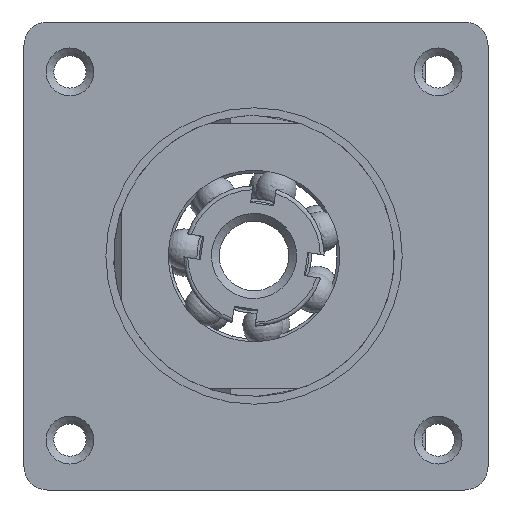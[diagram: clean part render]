
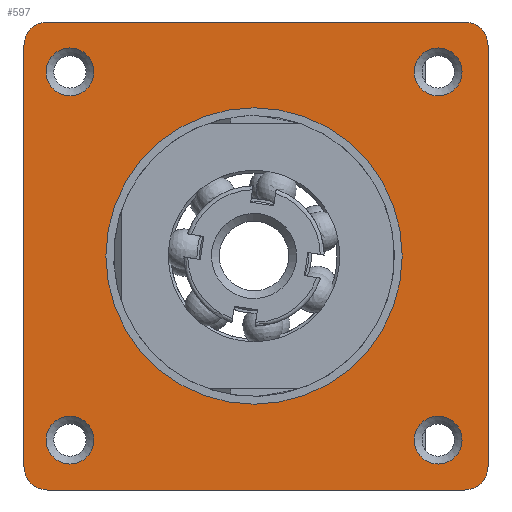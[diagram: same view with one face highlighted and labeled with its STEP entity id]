
A CAD part, left-side view. The second image highlights one B-rep face of the part: STEP entity #597.
In plain terms, the highlighted planar face has unit normal (-1, 0, 0).
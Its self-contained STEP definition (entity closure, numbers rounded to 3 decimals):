
#597=ADVANCED_FACE('',(#3290,#3292,#3294,#3296,#3298,#3300),#3302,.T.);
#3290=FACE_BOUND('',#3291,.T.);
#3291=EDGE_LOOP('',(#5610,#5611,#5612,#5613,#5614,#5615,#5616,#5617));
#3292=FACE_BOUND('',#3293,.T.);
#3293=EDGE_LOOP('',(#5618));
#3294=FACE_BOUND('',#3295,.T.);
#3295=EDGE_LOOP('',(#5619));
#3296=FACE_BOUND('',#3297,.T.);
#3297=EDGE_LOOP('',(#5620));
#3298=FACE_BOUND('',#3299,.T.);
#3299=EDGE_LOOP('',(#5621));
#3300=FACE_BOUND('',#3301,.T.);
#3301=EDGE_LOOP('',(#5622));
#3302=PLANE('',#3303);
#3303=AXIS2_PLACEMENT_3D('',#3304,#3305,#3306);
#3304=CARTESIAN_POINT('',(-10.,59.5,-30.));
#3305=DIRECTION('',(-1.,0.,0.));
#3306=DIRECTION('',(0.,-1.,0.));
#5610=ORIENTED_EDGE('',*,*,#6713,.F.);
#5611=ORIENTED_EDGE('',*,*,#6659,.F.);
#5612=ORIENTED_EDGE('',*,*,#6714,.F.);
#5613=ORIENTED_EDGE('',*,*,#6715,.F.);
#5614=ORIENTED_EDGE('',*,*,#6716,.F.);
#5615=ORIENTED_EDGE('',*,*,#6632,.T.);
#5616=ORIENTED_EDGE('',*,*,#6717,.F.);
#5617=ORIENTED_EDGE('',*,*,#6711,.T.);
#5618=ORIENTED_EDGE('',*,*,#6718,.T.);
#5619=ORIENTED_EDGE('',*,*,#6719,.T.);
#5620=ORIENTED_EDGE('',*,*,#6720,.T.);
#5621=ORIENTED_EDGE('',*,*,#6721,.T.);
#5622=ORIENTED_EDGE('',*,*,#6722,.T.);
#6632=EDGE_CURVE('',#7240,#7238,#7241,.T.);
#6659=EDGE_CURVE('',#7290,#7292,#7293,.T.);
#6711=EDGE_CURVE('',#7377,#7375,#7378,.T.);
#6713=EDGE_CURVE('',#7292,#7375,#7380,.F.);
#6714=EDGE_CURVE('',#7381,#7290,#7382,.F.);
#6715=EDGE_CURVE('',#7383,#7381,#7384,.T.);
#6716=EDGE_CURVE('',#7240,#7383,#7385,.F.);
#6717=EDGE_CURVE('',#7377,#7238,#7386,.F.);
#6718=EDGE_CURVE('',#7387,#7387,#7388,.F.);
#6719=EDGE_CURVE('',#7389,#7389,#7390,.F.);
#6720=EDGE_CURVE('',#7391,#7391,#7392,.F.);
#6721=EDGE_CURVE('',#7393,#7393,#7394,.F.);
#6722=EDGE_CURVE('',#7395,#7395,#7396,.F.);
#7238=VERTEX_POINT('',#8330);
#7240=VERTEX_POINT('',#8334);
#7241=LINE('',#8335,#8336);
#7290=VERTEX_POINT('',#8441);
#7292=VERTEX_POINT('',#8445);
#7293=LINE('',#8446,#8447);
#7375=VERTEX_POINT('',#8691);
#7377=VERTEX_POINT('',#8695);
#7378=LINE('',#8696,#8697);
#7380=CIRCLE('',#8702,3.);
#7381=VERTEX_POINT('',#8706);
#7382=CIRCLE('',#8707,3.);
#7383=VERTEX_POINT('',#8711);
#7384=LINE('',#8712,#8713);
#7385=CIRCLE('',#8715,3.);
#7386=CIRCLE('',#8719,3.);
#7387=VERTEX_POINT('',#8723);
#7388=CIRCLE('',#8724,3.067);
#7389=VERTEX_POINT('',#8728);
#7390=CIRCLE('',#8729,3.067);
#7391=VERTEX_POINT('',#8733);
#7392=CIRCLE('',#8734,19.);
#7393=VERTEX_POINT('',#8738);
#7394=CIRCLE('',#8739,3.067);
#7395=VERTEX_POINT('',#8743);
#7396=CIRCLE('',#8744,3.067);
#8330=CARTESIAN_POINT('',(-10.,3.,-30.));
#8334=CARTESIAN_POINT('',(-10.,56.5,-30.));
#8335=CARTESIAN_POINT('',(-10.,56.5,-30.));
#8336=VECTOR('',#8337,1.);
#8337=DIRECTION('',(0.,-1.,0.));
#8441=CARTESIAN_POINT('',(-10.,56.5,30.));
#8445=CARTESIAN_POINT('',(-10.,3.,30.));
#8446=CARTESIAN_POINT('',(-10.,56.5,30.));
#8447=VECTOR('',#8448,1.);
#8448=DIRECTION('',(0.,-1.,0.));
#8691=CARTESIAN_POINT('',(-10.,0.,27.));
#8695=CARTESIAN_POINT('',(-10.,0.,-27.));
#8696=CARTESIAN_POINT('',(-10.,0.,-27.));
#8697=VECTOR('',#8698,1.);
#8698=DIRECTION('',(0.,0.,1.));
#8702=AXIS2_PLACEMENT_3D('',#8703,#8704,#8705);
#8703=CARTESIAN_POINT('',(-10.,3.,27.));
#8704=DIRECTION('',(-1.,0.,0.));
#8705=DIRECTION('',(0.,-1.,0.));
#8706=CARTESIAN_POINT('',(-10.,59.5,27.));
#8707=AXIS2_PLACEMENT_3D('',#8708,#8709,#8710);
#8708=CARTESIAN_POINT('',(-10.,56.5,27.));
#8709=DIRECTION('',(-1.,0.,0.));
#8710=DIRECTION('',(0.,0.,1.));
#8711=CARTESIAN_POINT('',(-10.,59.5,-27.));
#8712=CARTESIAN_POINT('',(-10.,59.5,-27.));
#8713=VECTOR('',#8714,1.);
#8714=DIRECTION('',(0.,0.,1.));
#8715=AXIS2_PLACEMENT_3D('',#8716,#8717,#8718);
#8716=CARTESIAN_POINT('',(-10.,56.5,-27.));
#8717=DIRECTION('',(-1.,0.,0.));
#8718=DIRECTION('',(0.,1.,0.));
#8719=AXIS2_PLACEMENT_3D('',#8720,#8721,#8722);
#8720=CARTESIAN_POINT('',(-10.,3.,-27.));
#8721=DIRECTION('',(-1.,0.,0.));
#8722=DIRECTION('',(0.,0.,-1.));
#8723=CARTESIAN_POINT('',(-10.,9.467,-23.6));
#8724=AXIS2_PLACEMENT_3D('',#8725,#8726,#8727);
#8725=CARTESIAN_POINT('',(-10.,6.4,-23.6));
#8726=DIRECTION('',(-1.,0.,0.));
#8727=DIRECTION('',(0.,1.,0.));
#8728=CARTESIAN_POINT('',(-10.,56.667,23.6));
#8729=AXIS2_PLACEMENT_3D('',#8730,#8731,#8732);
#8730=CARTESIAN_POINT('',(-10.,53.6,23.6));
#8731=DIRECTION('',(-1.,0.,0.));
#8732=DIRECTION('',(0.,1.,0.));
#8733=CARTESIAN_POINT('',(-10.,30.,19.));
#8734=AXIS2_PLACEMENT_3D('',#8735,#8736,#8737);
#8735=CARTESIAN_POINT('',(-10.,30.,0.));
#8736=DIRECTION('',(-1.,0.,0.));
#8737=DIRECTION('',(0.,0.,1.));
#8738=CARTESIAN_POINT('',(-10.,56.667,-23.6));
#8739=AXIS2_PLACEMENT_3D('',#8740,#8741,#8742);
#8740=CARTESIAN_POINT('',(-10.,53.6,-23.6));
#8741=DIRECTION('',(-1.,0.,0.));
#8742=DIRECTION('',(0.,1.,0.));
#8743=CARTESIAN_POINT('',(-10.,9.467,23.6));
#8744=AXIS2_PLACEMENT_3D('',#8745,#8746,#8747);
#8745=CARTESIAN_POINT('',(-10.,6.4,23.6));
#8746=DIRECTION('',(-1.,0.,0.));
#8747=DIRECTION('',(0.,1.,0.));
